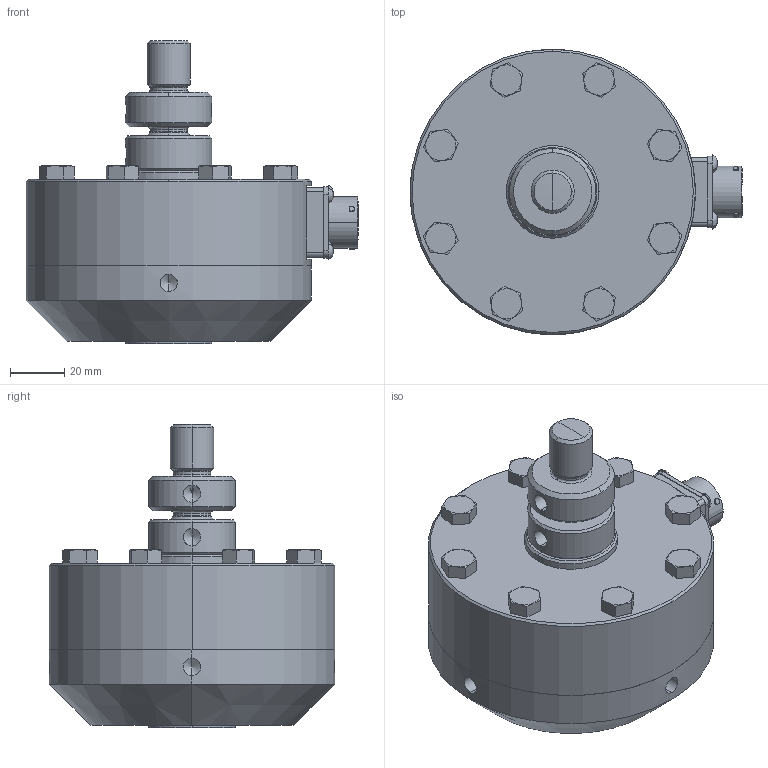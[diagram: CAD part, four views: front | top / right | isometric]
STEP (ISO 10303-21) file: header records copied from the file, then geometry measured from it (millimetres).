
FILE_DESCRIPTION (( 'STEP AP203' ), '1' );
FILE_NAME ('Interface 1610-500 thru -10K.STEP', '2012-05-08T17:22:25', ( ' ' ), ( '' ), 'SwSTEP 2.0', 'SolidWorks 2002349', '' );
FILE_SCHEMA (( 'CONFIG_CONTROL_DESIGN' ));
Length unit declared in the file: inch
Products named in the file (1): Interface 1610-500 thru -10K
Bounding box: 121.86 x 104.75 x 111.23 mm (x, y, z)
Volume: 509261.2 mm3; surface area: 55677.3 mm2
Topology: 1 solids, 14 shells, 406 faces, 946 edges, 587 vertices
Faces by surface type: plane 164, cylinder 128, cone 96, bspline 18
Entity records: 12730 total; most frequent: CARTESIAN_POINT 3596, DIRECTION 1867, ORIENTED_EDGE 1864, EDGE_CURVE 932, AXIS2_PLACEMENT_3D 730, VERTEX_POINT 587, EDGE_LOOP 465, LINE 407
